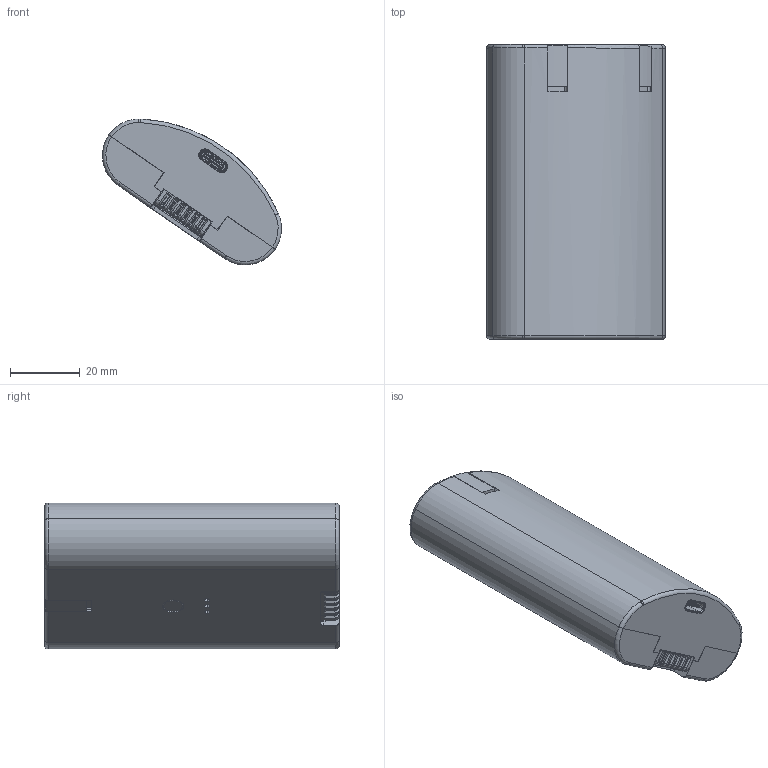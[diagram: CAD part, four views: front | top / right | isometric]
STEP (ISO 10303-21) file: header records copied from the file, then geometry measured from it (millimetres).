
FILE_DESCRIPTION (( 'STEP AP214' ), '1' );
FILE_NAME ('2.Battery-assem.STEP', '2025-09-26T06:31:15', ( '' ), ( '' ), 'SwSTEP 2.0', 'SolidWorks 2016', '' );
FILE_SCHEMA (( 'AUTOMOTIVE_DESIGN' ));
Length unit declared in the file: millimetre
Products named in the file (6): 2.Battery-assem; BPU3-1-2A v3; 37904-Battery housing-Top; 38151-Silicone button; CT2-997 v3; 37905-Battery housing-Bottom
Assembly tree (5 placements, depth 2):
  2.Battery-assem
    37905-Battery housing-Bottom
    37904-Battery housing-Top
    38151-Silicone button
    BPU3-1-2A v3
    CT2-997 v3
Bounding box: 51.51 x 84.85 x 42.01 mm (x, y, z)
Volume: 18211.2 mm3; surface area: 33785 mm2
Topology: 7 solids, 7 shells, 3898 faces, 10734 edges, 6845 vertices
Faces by surface type: plane 1883, cylinder 1231, cone 322, bspline 262, torus 192, sphere 8
Entity records: 164540 total; most frequent: CARTESIAN_POINT 31739, ORIENTED_EDGE 21440, DIRECTION 19390, EDGE_CURVE 10720, VERTEX_POINT 6845, LINE 6514, VECTOR 6514, AXIS2_PLACEMENT_3D 6438
